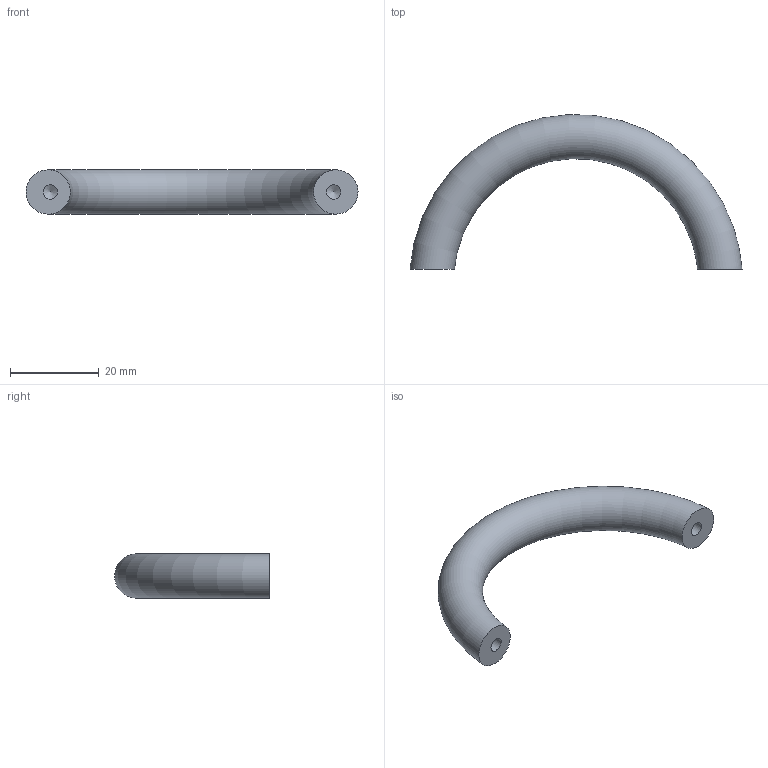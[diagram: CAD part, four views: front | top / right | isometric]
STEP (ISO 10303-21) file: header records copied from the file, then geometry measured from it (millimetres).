
FILE_DESCRIPTION( ( 'STEP AP203' ), '1' );
FILE_NAME( 'C:/Temp/Ganter_Step_05_03_2020/data/1_2/gn424_1/Arch handle GN 424.1-10-64-SW.stp', '2020-03-05T10:12:24', ( 'License CC BY-ND 4.0' ), ( 'CADENAS' ), ' ', 'PARTsolutions', ' ' );
FILE_SCHEMA( ( 'CONFIG_CONTROL_DESIGN' ) );
Length unit declared in the file: millimetre
Products named in the file (1): _Arch handle GN 424.1-10-64-SW
Bounding box: 74.99 x 34.96 x 10 mm (x, y, z)
Volume: 7540.3 mm3; surface area: 3323 mm2
Topology: 1 solids, 1 shells, 7 faces, 14 edges, 9 vertices
Faces by surface type: cone 2, cylinder 2, plane 2, torus 1
Full cylindrical faces by diameter (mm): 3.242 x2
Entity records: 326 total; most frequent: CARTESIAN_POINT 168, DIRECTION 24, AXIS2_PLACEMENT_3D 12, EDGE_LOOP 12, ORIENTED_EDGE 12, FACE_OUTER_BOUND 10, VERTEX_POINT 8, ADVANCED_FACE 7
